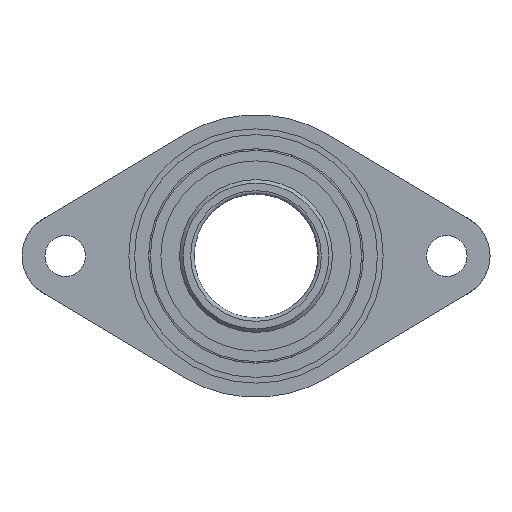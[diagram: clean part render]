
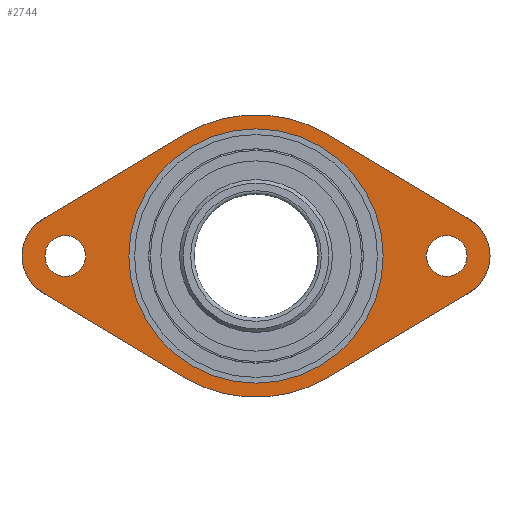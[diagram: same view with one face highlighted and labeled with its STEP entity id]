
A CAD part, left-side view. The second image highlights one B-rep face of the part: STEP entity #2744.
In plain terms, the highlighted planar face has unit normal (-1, 0, 0).
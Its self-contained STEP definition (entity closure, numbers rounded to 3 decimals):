
#64 = VERTEX_POINT ( 'NONE', #120 ) ;
#93 = CARTESIAN_POINT ( 'NONE',  ( -31., -41.111, -68.629 ) ) ;
#96 = AXIS2_PLACEMENT_3D ( 'NONE', #577, #576, #573 ) ;
#99 = VERTEX_POINT ( 'NONE', #170 ) ;
#120 = CARTESIAN_POINT ( 'NONE',  ( -31., 108., -11.5 ) ) ;
#142 = VERTEX_POINT ( 'NONE', #218 ) ;
#170 = CARTESIAN_POINT ( 'NONE',  ( -31., -108., -11.5 ) ) ;
#218 = CARTESIAN_POINT ( 'NONE',  ( -31., 0., -72. ) ) ;
#272 = VECTOR ( 'NONE', #385, 1000. ) ;
#275 = AXIS2_PLACEMENT_3D ( 'NONE', #2619, #2595, #2594 ) ;
#285 = LINE ( 'NONE', #386, #272 ) ;
#361 = CIRCLE ( 'NONE', #96, 11.5 ) ;
#385 = DIRECTION ( 'NONE',  ( 0., 0.858, 0.514 ) ) ;
#386 = CARTESIAN_POINT ( 'NONE',  ( -31., -120.59, 21.017 ) ) ;
#447 = FACE_BOUND ( 'NONE', #2368, .T. ) ;
#452 = FACE_OUTER_BOUND ( 'NONE', #2367, .T. ) ;
#457 = FACE_BOUND ( 'NONE', #1787, .T. ) ;
#460 = FACE_BOUND ( 'NONE', #2966, .T. ) ;
#573 = DIRECTION ( 'NONE',  ( 0., 0., -1. ) ) ;
#576 = DIRECTION ( 'NONE',  ( 1., 0., 0. ) ) ;
#577 = CARTESIAN_POINT ( 'NONE',  ( -31., 108., 0. ) ) ;
#639 = AXIS2_PLACEMENT_3D ( 'NONE', #3023, #3003, #2611 ) ;
#664 = DIRECTION ( 'NONE',  ( 0., 0., -1. ) ) ;
#700 = CARTESIAN_POINT ( 'NONE',  ( -31., -108., 0. ) ) ;
#707 = DIRECTION ( 'NONE',  ( 1., 0., 0. ) ) ;
#710 = AXIS2_PLACEMENT_3D ( 'NONE', #2792, #2485, #2497 ) ;
#803 = AXIS2_PLACEMENT_3D ( 'NONE', #1070, #1071, #1074 ) ;
#816 = CIRCLE ( 'NONE', #639, 11.5 ) ;
#888 = CIRCLE ( 'NONE', #710, 24.5 ) ;
#924 = CIRCLE ( 'NONE', #803, 72. ) ;
#1003 = CARTESIAN_POINT ( 'NONE',  ( -31., 41.111, -68.629 ) ) ;
#1008 = AXIS2_PLACEMENT_3D ( 'NONE', #700, #707, #664 ) ;
#1011 = CIRCLE ( 'NONE', #1008, 24.5 ) ;
#1070 = CARTESIAN_POINT ( 'NONE',  ( -31., 0., 0. ) ) ;
#1071 = DIRECTION ( 'NONE',  ( 1., 0., 0. ) ) ;
#1073 = AXIS2_PLACEMENT_3D ( 'NONE', #2942, #2949, #2957 ) ;
#1074 = DIRECTION ( 'NONE',  ( 0., 0., -1. ) ) ;
#1080 = CIRCLE ( 'NONE', #1073, 80. ) ;
#1087 = CARTESIAN_POINT ( 'NONE',  ( -31., -120.59, -21.017 ) ) ;
#1117 = LINE ( 'NONE', #2831, #1120 ) ;
#1118 = AXIS2_PLACEMENT_3D ( 'NONE', #2948, #2932, #2900 ) ;
#1120 = VECTOR ( 'NONE', #2824, 1000. ) ;
#1171 = EDGE_CURVE ( 'E455', #1697, #2019, #1312, .T. ) ;
#1195 = CIRCLE ( 'NONE', #1118, 80. ) ;
#1261 = VECTOR ( 'NONE', #2343, 1000. ) ;
#1291 = LINE ( 'NONE', #2266, #1261 ) ;
#1308 = VECTOR ( 'NONE', #2115, 1000. ) ;
#1312 = LINE ( 'NONE', #2096, #1308 ) ;
#1365 = EDGE_CURVE ( 'E408', #2080, #2207, #1291, .T. ) ;
#1454 = CARTESIAN_POINT ( 'NONE',  ( -31., 120.59, 21.017 ) ) ;
#1599 = EDGE_CURVE ( 'E429', #2207, #2019, #1195, .T. ) ;
#1684 = EDGE_CURVE ( 'E272', #2126, #1773, #1117, .T. ) ;
#1697 = VERTEX_POINT ( 'NONE', #2816 ) ;
#1760 = EDGE_CURVE ( 'E293', #1773, #2220, #1080, .T. ) ;
#1773 = VERTEX_POINT ( 'NONE', #2938 ) ;
#1787 = EDGE_LOOP ( 'NONE', ( #2366 ) ) ;
#1876 = EDGE_CURVE ( 'E325', #2140, #2080, #1011, .T. ) ;
#2019 = VERTEX_POINT ( 'NONE', #1003 ) ;
#2047 = EDGE_CURVE ( 'NONE', #142, #142, #924, .T. ) ;
#2080 = VERTEX_POINT ( 'NONE', #1087 ) ;
#2096 = CARTESIAN_POINT ( 'NONE',  ( -31., 120.59, -21.017 ) ) ;
#2115 = DIRECTION ( 'NONE',  ( 0., -0.858, -0.514 ) ) ;
#2126 = VERTEX_POINT ( 'NONE', #1454 ) ;
#2133 = EDGE_CURVE ( 'E461', #1697, #2126, #888, .T. ) ;
#2140 = VERTEX_POINT ( 'NONE', #2302 ) ;
#2207 = VERTEX_POINT ( 'NONE', #93 ) ;
#2220 = VERTEX_POINT ( 'NONE', #2662 ) ;
#2266 = CARTESIAN_POINT ( 'NONE',  ( -31., -120.59, -21.017 ) ) ;
#2280 = ORIENTED_EDGE ( 'NONE', *, *, #1876, .F. ) ;
#2302 = CARTESIAN_POINT ( 'NONE',  ( -31., -120.59, 21.017 ) ) ;
#2312 = EDGE_CURVE ( 'NONE', #99, #99, #816, .T. ) ;
#2343 = DIRECTION ( 'NONE',  ( 0., 0.858, -0.514 ) ) ;
#2366 = ORIENTED_EDGE ( 'NONE', *, *, #2047, .T. ) ;
#2367 = EDGE_LOOP ( 'NONE', ( #2764, #2280, #2772, #2775, #2791, #2798, #2815, #2821 ) ) ;
#2368 = EDGE_LOOP ( 'NONE', ( #2421 ) ) ;
#2371 = ORIENTED_EDGE ( 'NONE', *, *, #2312, .T. ) ;
#2421 = ORIENTED_EDGE ( 'NONE', *, *, #2955, .T. ) ;
#2485 = DIRECTION ( 'NONE',  ( 1., 0., 0. ) ) ;
#2497 = DIRECTION ( 'NONE',  ( 0., 0., -1. ) ) ;
#2594 = DIRECTION ( 'NONE',  ( 0., 0., -1. ) ) ;
#2595 = DIRECTION ( 'NONE',  ( 1., 0., 0. ) ) ;
#2600 = PLANE ( 'NONE',  #275 ) ;
#2611 = DIRECTION ( 'NONE',  ( 0., 0., -1. ) ) ;
#2619 = CARTESIAN_POINT ( 'NONE',  ( -31., 0., 0. ) ) ;
#2662 = CARTESIAN_POINT ( 'NONE',  ( -31., -41.111, 68.629 ) ) ;
#2744 = ADVANCED_FACE ( 'E533', ( #457, #460, #447, #452 ), #2600, .F. ) ;
#2764 = ORIENTED_EDGE ( 'NONE', *, *, #1365, .F. ) ;
#2772 = ORIENTED_EDGE ( 'NONE', *, *, #3043, .T. ) ;
#2775 = ORIENTED_EDGE ( 'NONE', *, *, #1760, .F. ) ;
#2791 = ORIENTED_EDGE ( 'NONE', *, *, #1684, .F. ) ;
#2792 = CARTESIAN_POINT ( 'NONE',  ( -31., 108., 0. ) ) ;
#2798 = ORIENTED_EDGE ( 'NONE', *, *, #2133, .F. ) ;
#2815 = ORIENTED_EDGE ( 'NONE', *, *, #1171, .T. ) ;
#2816 = CARTESIAN_POINT ( 'NONE',  ( -31., 120.59, -21.017 ) ) ;
#2821 = ORIENTED_EDGE ( 'NONE', *, *, #1599, .F. ) ;
#2824 = DIRECTION ( 'NONE',  ( 0., -0.858, 0.514 ) ) ;
#2831 = CARTESIAN_POINT ( 'NONE',  ( -31., 120.59, 21.017 ) ) ;
#2900 = DIRECTION ( 'NONE',  ( 0., 0., -1. ) ) ;
#2932 = DIRECTION ( 'NONE',  ( 1., 0., 0. ) ) ;
#2938 = CARTESIAN_POINT ( 'NONE',  ( -31., 41.111, 68.629 ) ) ;
#2942 = CARTESIAN_POINT ( 'NONE',  ( -31., 0., 0. ) ) ;
#2948 = CARTESIAN_POINT ( 'NONE',  ( -31., 0., 0. ) ) ;
#2949 = DIRECTION ( 'NONE',  ( 1., 0., 0. ) ) ;
#2955 = EDGE_CURVE ( 'NONE', #64, #64, #361, .T. ) ;
#2957 = DIRECTION ( 'NONE',  ( 0., 0., -1. ) ) ;
#2966 = EDGE_LOOP ( 'NONE', ( #2371 ) ) ;
#3003 = DIRECTION ( 'NONE',  ( 1., 0., 0. ) ) ;
#3023 = CARTESIAN_POINT ( 'NONE',  ( -31., -108., 0. ) ) ;
#3043 = EDGE_CURVE ( 'E319', #2140, #2220, #285, .T. ) ;
